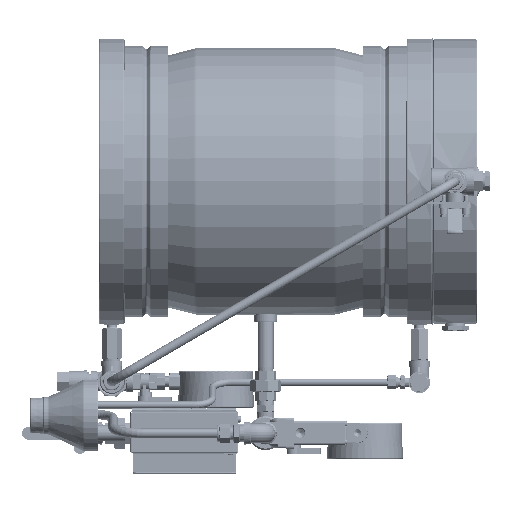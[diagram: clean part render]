
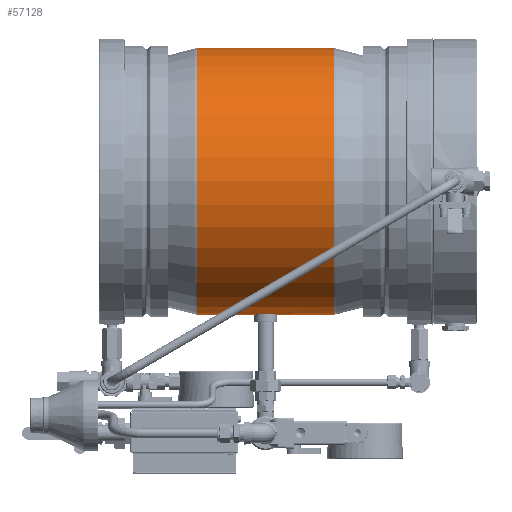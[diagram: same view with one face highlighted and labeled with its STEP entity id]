
A CAD part, front view. The second image highlights one B-rep face of the part: STEP entity #57128.
In plain terms, the highlighted cylindrical face has radius 177 mm (diameter 354 mm), a full revolution.
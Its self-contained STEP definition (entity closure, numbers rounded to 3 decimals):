
#1531=B_SPLINE_CURVE_WITH_KNOTS('',3,(#89831,#89832,#89833,#89834,#89835,
#89836,#89837,#89838,#89839,#89840,#89841,#89842,#89843,#89844,#89845,#89846,
#89847,#89848),.UNSPECIFIED.,.F.,.F.,(4,2,2,2,2,2,2,2,4),(2.11,
2.638,3.166,3.693,4.221,4.748,
5.276,5.804,6.331),.UNSPECIFIED.);
#1532=B_SPLINE_CURVE_WITH_KNOTS('',3,(#89849,#89850,#89851,#89852,#89853,
#89854,#89855,#89856,#89857,#89858,#89859,#89860,#89861,#89862,#89863,#89864,
#89865,#89866,#89867),.UNSPECIFIED.,.F.,.F.,(4,2,2,2,3,2,2,2,4),(6.331,
6.859,7.386,7.914,8.442,8.969,
9.497,10.024,10.552),.UNSPECIFIED.);
#2371=CYLINDRICAL_SURFACE('',#63129,177.);
#14655=FACE_BOUND('',#19836,.T.);
#14656=FACE_BOUND('',#19837,.T.);
#16039=FACE_OUTER_BOUND('',#19835,.T.);
#19835=EDGE_LOOP('',(#41533));
#19836=EDGE_LOOP('',(#41534,#41535));
#19837=EDGE_LOOP('',(#41536));
#24403=CIRCLE('',#63127,177.);
#24405=CIRCLE('',#63130,177.);
#26800=VERTEX_POINT('',#89829);
#26801=VERTEX_POINT('',#89830);
#26815=VERTEX_POINT('',#89938);
#26817=VERTEX_POINT('',#89943);
#32552=EDGE_CURVE('',#26800,#26801,#1531,.T.);
#32553=EDGE_CURVE('',#26801,#26800,#1532,.T.);
#32567=EDGE_CURVE('',#26815,#26815,#24403,.T.);
#32569=EDGE_CURVE('',#26817,#26817,#24405,.T.);
#41533=ORIENTED_EDGE('',*,*,#32569,.F.);
#41534=ORIENTED_EDGE('',*,*,#32552,.T.);
#41535=ORIENTED_EDGE('',*,*,#32553,.T.);
#41536=ORIENTED_EDGE('',*,*,#32567,.F.);
#57128=ADVANCED_FACE('',(#16039,#14655,#14656),#2371,.T.);
#63127=AXIS2_PLACEMENT_3D('',#89939,#70063,#70064);
#63129=AXIS2_PLACEMENT_3D('',#89942,#70067,#70068);
#63130=AXIS2_PLACEMENT_3D('',#89944,#70069,#70070);
#70063=DIRECTION('center_axis',(1.,0.,0.));
#70064=DIRECTION('ref_axis',(0.,-1.,0.));
#70067=DIRECTION('center_axis',(1.,0.,0.));
#70068=DIRECTION('ref_axis',(0.,1.,0.));
#70069=DIRECTION('center_axis',(-1.,0.,0.));
#70070=DIRECTION('ref_axis',(0.,-1.,0.));
#89829=CARTESIAN_POINT('',(164.5,-166.,177.));
#89830=CARTESIAN_POINT('',(192.5,-166.,177.));
#89831=CARTESIAN_POINT('Ctrl Pts',(164.5,-166.,177.));
#89832=CARTESIAN_POINT('Ctrl Pts',(164.5,-164.241,177.));
#89833=CARTESIAN_POINT('Ctrl Pts',(164.852,-162.366,176.971));
#89834=CARTESIAN_POINT('Ctrl Pts',(166.281,-158.917,176.867));
#89835=CARTESIAN_POINT('Ctrl Pts',(167.358,-157.343,176.793));
#89836=CARTESIAN_POINT('Ctrl Pts',(169.843,-154.858,176.653));
#89837=CARTESIAN_POINT('Ctrl Pts',(171.417,-153.781,176.579));
#89838=CARTESIAN_POINT('Ctrl Pts',(174.866,-152.352,176.474));
#89839=CARTESIAN_POINT('Ctrl Pts',(176.741,-152.,176.445));
#89840=CARTESIAN_POINT('Ctrl Pts',(180.259,-152.,176.445));
#89841=CARTESIAN_POINT('Ctrl Pts',(182.134,-152.352,176.474));
#89842=CARTESIAN_POINT('Ctrl Pts',(185.583,-153.781,176.579));
#89843=CARTESIAN_POINT('Ctrl Pts',(187.157,-154.858,176.653));
#89844=CARTESIAN_POINT('Ctrl Pts',(189.642,-157.343,176.793));
#89845=CARTESIAN_POINT('Ctrl Pts',(190.719,-158.917,176.867));
#89846=CARTESIAN_POINT('Ctrl Pts',(192.148,-162.366,176.971));
#89847=CARTESIAN_POINT('Ctrl Pts',(192.5,-164.241,177.));
#89848=CARTESIAN_POINT('Ctrl Pts',(192.5,-166.,177.));
#89849=CARTESIAN_POINT('Ctrl Pts',(192.5,-166.,177.));
#89850=CARTESIAN_POINT('Ctrl Pts',(192.5,-167.759,177.));
#89851=CARTESIAN_POINT('Ctrl Pts',(192.148,-169.634,176.971));
#89852=CARTESIAN_POINT('Ctrl Pts',(190.719,-173.083,176.867));
#89853=CARTESIAN_POINT('Ctrl Pts',(189.642,-174.657,176.793));
#89854=CARTESIAN_POINT('Ctrl Pts',(187.157,-177.142,176.653));
#89855=CARTESIAN_POINT('Ctrl Pts',(185.583,-178.219,176.579));
#89856=CARTESIAN_POINT('Ctrl Pts',(182.134,-179.648,176.474));
#89857=CARTESIAN_POINT('Ctrl Pts',(180.259,-180.,176.445));
#89858=CARTESIAN_POINT('Ctrl Pts',(178.5,-180.,176.445));
#89859=CARTESIAN_POINT('Ctrl Pts',(176.741,-180.,176.445));
#89860=CARTESIAN_POINT('Ctrl Pts',(174.866,-179.648,176.474));
#89861=CARTESIAN_POINT('Ctrl Pts',(171.417,-178.219,176.579));
#89862=CARTESIAN_POINT('Ctrl Pts',(169.843,-177.142,176.653));
#89863=CARTESIAN_POINT('Ctrl Pts',(167.358,-174.657,176.793));
#89864=CARTESIAN_POINT('Ctrl Pts',(166.281,-173.083,176.867));
#89865=CARTESIAN_POINT('Ctrl Pts',(164.852,-169.634,176.971));
#89866=CARTESIAN_POINT('Ctrl Pts',(164.5,-167.759,177.));
#89867=CARTESIAN_POINT('Ctrl Pts',(164.5,-166.,177.));
#89938=CARTESIAN_POINT('',(269.621,11.,0.));
#89939=CARTESIAN_POINT('Origin',(269.621,-166.,0.));
#89942=CARTESIAN_POINT('Origin',(178.5,-166.,0.));
#89943=CARTESIAN_POINT('',(87.379,11.,0.));
#89944=CARTESIAN_POINT('Origin',(87.379,-166.,0.));
